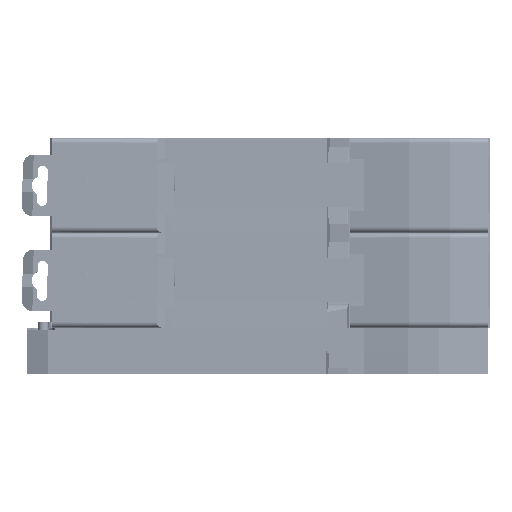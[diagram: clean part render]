
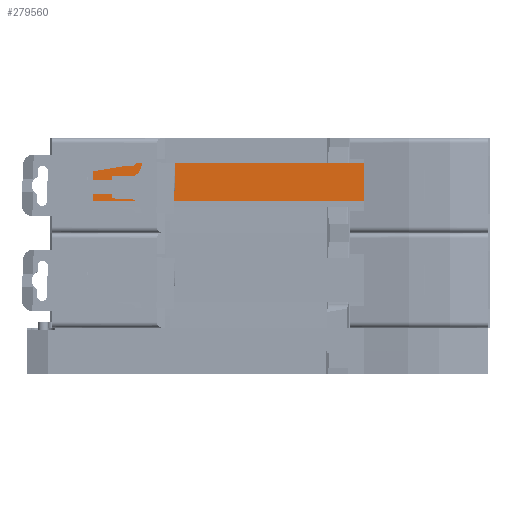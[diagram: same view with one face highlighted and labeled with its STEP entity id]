
A CAD part, front view. The second image highlights one B-rep face of the part: STEP entity #279560.
In plain terms, the highlighted planar face has unit normal (0, -1, 0).
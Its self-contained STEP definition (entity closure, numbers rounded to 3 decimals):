
#616 = CARTESIAN_POINT ( 'NONE',  ( -54.111, 3.207, -20.282 ) ) ;
#1685 = ORIENTED_EDGE ( 'NONE', *, *, #270729, .F. ) ;
#16995 = DIRECTION ( 'NONE',  ( 0.009, 0., -1. ) ) ;
#21070 = DIRECTION ( 'NONE',  ( 0., 0., 1. ) ) ;
#21997 = LINE ( 'NONE', #254575, #185240 ) ;
#22921 = VECTOR ( 'NONE', #97776, 1000. ) ;
#28593 = DIRECTION ( 'NONE',  ( -1., 0., 0. ) ) ;
#30869 = VERTEX_POINT ( 'NONE', #219237 ) ;
#46610 = DIRECTION ( 'NONE',  ( 0., 1., 0. ) ) ;
#48794 = CARTESIAN_POINT ( 'NONE',  ( -36.661, 3.207, 1.315 ) ) ;
#50088 = AXIS2_PLACEMENT_3D ( 'NONE', #179533, #46610, #246444 ) ;
#50470 = LINE ( 'NONE', #71603, #283186 ) ;
#53223 = EDGE_CURVE ( 'NONE', #218973, #156196, #154926, .T. ) ;
#64994 = EDGE_CURVE ( 'NONE', #156196, #116679, #275613, .T. ) ;
#69892 = PLANE ( 'NONE',  #50088 ) ;
#71603 = CARTESIAN_POINT ( 'NONE',  ( -36.661, 3.207, 1.315 ) ) ;
#77956 = ORIENTED_EDGE ( 'NONE', *, *, #182482, .T. ) ;
#83136 = ORIENTED_EDGE ( 'NONE', *, *, #64994, .F. ) ;
#87756 = CARTESIAN_POINT ( 'NONE',  ( -51.258, 3.207, 1.315 ) ) ;
#91965 = VERTEX_POINT ( 'NONE', #234333 ) ;
#97776 = DIRECTION ( 'NONE',  ( 1., 0., 0. ) ) ;
#116679 = VERTEX_POINT ( 'NONE', #260679 ) ;
#121520 = VECTOR ( 'NONE', #21070, 1000. ) ;
#140050 = LINE ( 'NONE', #48794, #233865 ) ;
#154926 = LINE ( 'NONE', #187163, #22921 ) ;
#156196 = VERTEX_POINT ( 'NONE', #264043 ) ;
#157041 = DIRECTION ( 'NONE',  ( 1., 0., 0. ) ) ;
#172241 = CARTESIAN_POINT ( 'NONE',  ( -3.938, 3.207, 8.4 ) ) ;
#175315 = EDGE_CURVE ( 'NONE', #30869, #116679, #50470, .T. ) ;
#179533 = CARTESIAN_POINT ( 'NONE',  ( -135.966, 3.207, -20.282 ) ) ;
#182482 = EDGE_CURVE ( 'NONE', #91965, #226415, #140050, .T. ) ;
#185240 = VECTOR ( 'NONE', #28593, 1000. ) ;
#185900 = ORIENTED_EDGE ( 'NONE', *, *, #175315, .T. ) ;
#187163 = CARTESIAN_POINT ( 'NONE',  ( -135.966, 3.207, 8.4 ) ) ;
#199647 = ORIENTED_EDGE ( 'NONE', *, *, #273592, .F. ) ;
#202063 = ORIENTED_EDGE ( 'NONE', *, *, #53223, .F. ) ;
#204059 = DIRECTION ( 'NONE',  ( 1., 0., 0. ) ) ;
#218973 = VERTEX_POINT ( 'NONE', #238688 ) ;
#219237 = CARTESIAN_POINT ( 'NONE',  ( -47.196, 3.207, 1.315 ) ) ;
#226415 = VERTEX_POINT ( 'NONE', #87756 ) ;
#233865 = VECTOR ( 'NONE', #204059, 1000. ) ;
#234333 = CARTESIAN_POINT ( 'NONE',  ( -54.111, 3.207, 1.315 ) ) ;
#238688 = CARTESIAN_POINT ( 'NONE',  ( -54.111, 3.207, 8.4 ) ) ;
#246444 = DIRECTION ( 'NONE',  ( 1., 0., 0. ) ) ;
#254575 = CARTESIAN_POINT ( 'NONE',  ( -135.966, 3.207, 1.315 ) ) ;
#258341 = VECTOR ( 'NONE', #16995, 1000. ) ;
#260679 = CARTESIAN_POINT ( 'NONE',  ( -3.876, 3.207, 1.315 ) ) ;
#264043 = CARTESIAN_POINT ( 'NONE',  ( -3.938, 3.207, 8.4 ) ) ;
#270729 = EDGE_CURVE ( 'NONE', #91965, #218973, #274427, .T. ) ;
#273592 = EDGE_CURVE ( 'NONE', #30869, #226415, #21997, .T. ) ;
#274427 = LINE ( 'NONE', #616, #121520 ) ;
#275613 = LINE ( 'NONE', #172241, #258341 ) ;
#279560 = ADVANCED_FACE ( 'NONE', ( #282905 ), #69892, .F. ) ;
#282905 = FACE_OUTER_BOUND ( 'NONE', #287040, .T. ) ;
#283186 = VECTOR ( 'NONE', #157041, 1000. ) ;
#287040 = EDGE_LOOP ( 'NONE', ( #83136, #202063, #1685, #77956, #199647, #185900 ) ) ;
